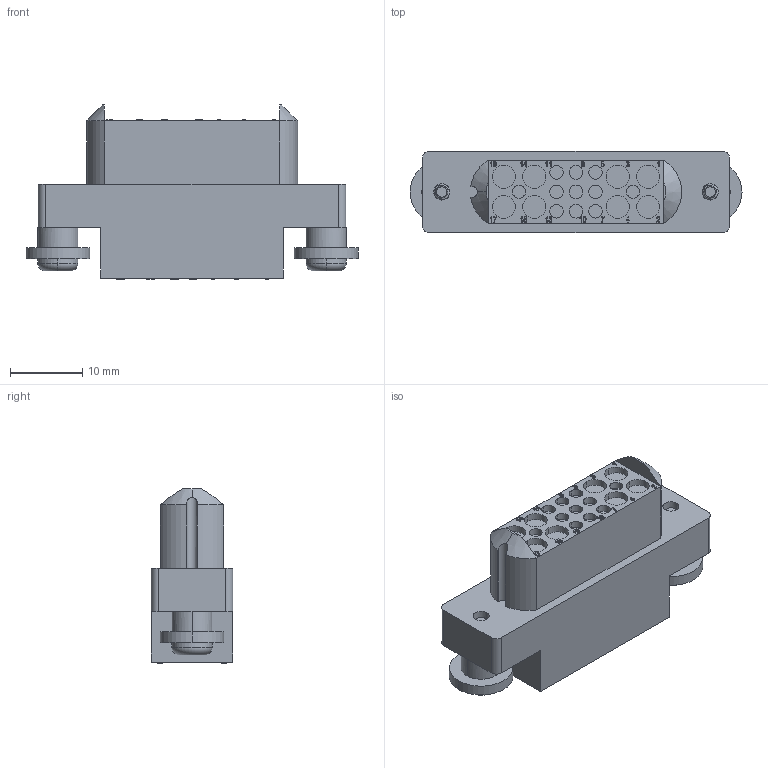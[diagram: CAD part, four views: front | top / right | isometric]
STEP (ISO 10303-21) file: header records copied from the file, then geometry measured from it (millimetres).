
FILE_DESCRIPTION (( 'STEP AP203' ), '1' );
FILE_NAME ('GFSH89F183.STEP', '2024-12-28T03:25:33', ( '' ), ( '' ), 'SwSTEP 2.0', 'SolidWorks 2021', '' );
FILE_SCHEMA (( 'CONFIG_CONTROL_DESIGN' ));
Products named in the file (1): GFSH89F183
Bounding box: 46.03 x 11.3 x 24.13 mm (x, y, z)
Volume: 7012.8 mm3; surface area: 4113.8 mm2
Topology: 1 solids, 1 shells, 761 faces, 1938 edges, 1280 vertices
Faces by surface type: plane 371, bspline 234, cylinder 141, cone 11, torus 4
Entity records: 40555 total; most frequent: CARTESIAN_POINT 23700, ORIENTED_EDGE 3876, DIRECTION 2668, EDGE_CURVE 1938, VERTEX_POINT 1280, LINE 1128, VECTOR 1128, EDGE_LOOP 866
